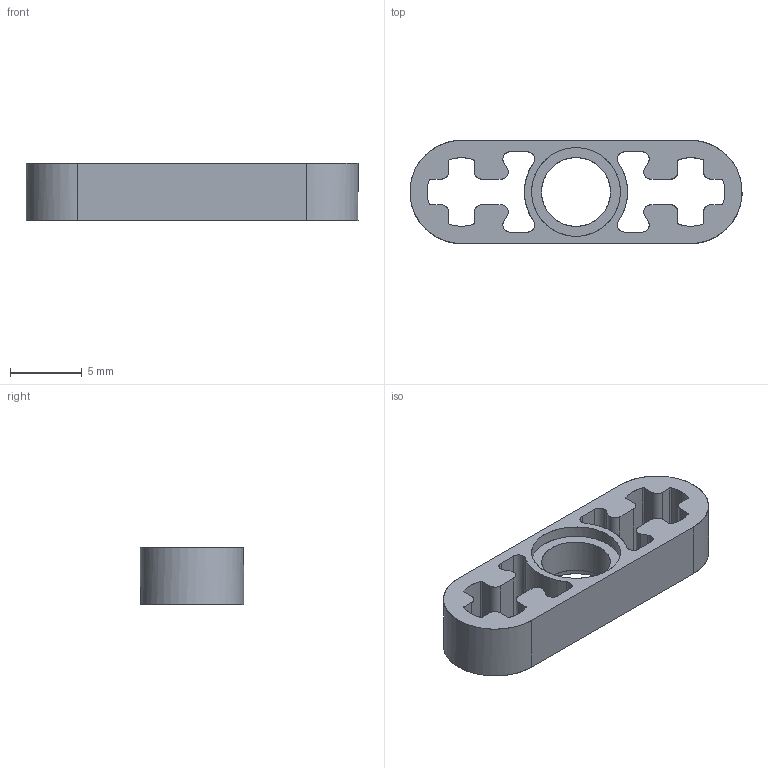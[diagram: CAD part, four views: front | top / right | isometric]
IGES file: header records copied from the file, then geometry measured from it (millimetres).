
Start section: C
Global section: file name: Black_4107828_AVV.iges; native system: By Siemens PLM Incorporated; preprocessor: XPlus GENERIC/IGES 26.1.183; author: Author; organization: Title; date: 20250721.234413; units: millimetre
Bounding box: 23.18 x 7.2 x 4 mm (x, y, z)
Surface area: 706.3 mm2 (no closed solid volume)
Topology: 0 solids, 0 shells, 83 faces, 486 edges, 486 vertices
Faces by surface type: bspline 83
